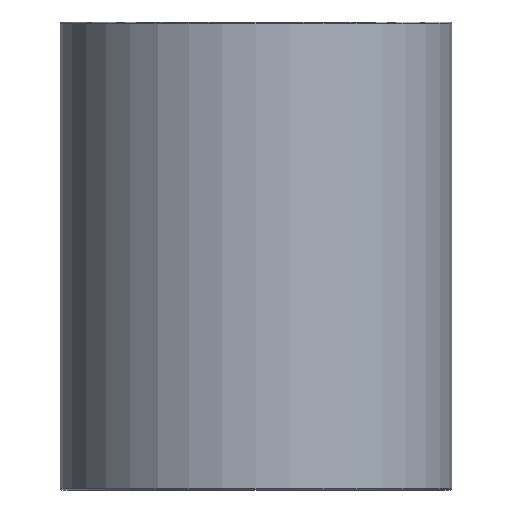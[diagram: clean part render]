
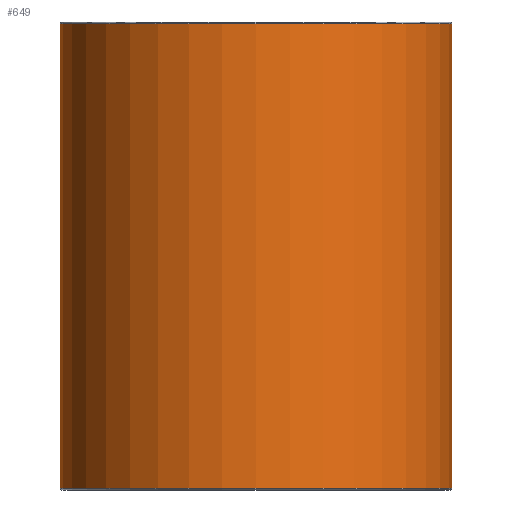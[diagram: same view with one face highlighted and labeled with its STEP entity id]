
A CAD part, front view. The second image highlights one B-rep face of the part: STEP entity #649.
In plain terms, the highlighted cylindrical face has radius 56.7 mm (diameter 113.4 mm), a partial arc.
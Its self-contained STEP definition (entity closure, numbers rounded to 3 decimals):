
#183=CARTESIAN_POINT('',(0.,0.,-0.5));
#184=DIRECTION('',(0.,0.,-1.));
#185=DIRECTION('',(1.,0.,0.));
#186=AXIS2_PLACEMENT_3D('',#183,#184,#185);
#191=CARTESIAN_POINT('',(0.,0.,-135.));
#192=DIRECTION('',(0.,0.,-1.));
#193=DIRECTION('',(1.,0.,0.));
#194=AXIS2_PLACEMENT_3D('',#191,#192,#193);
#207=DIRECTION('',(0.,0.,-1.));
#208=VECTOR('',#207,134.5);
#209=CARTESIAN_POINT('',(-56.7,0.,-0.5));
#210=LINE('',#209,#208);
#222=DIRECTION('',(0.,0.,-1.));
#223=VECTOR('',#222,134.5);
#224=CARTESIAN_POINT('',(56.7,0.,-0.5));
#225=LINE('',#224,#223);
#371=CARTESIAN_POINT('',(56.7,0.,-135.));
#372=CARTESIAN_POINT('',(-56.7,0.,-135.));
#373=VERTEX_POINT('',#371);
#374=VERTEX_POINT('',#372);
#383=CARTESIAN_POINT('',(56.7,0.,-0.5));
#384=CARTESIAN_POINT('',(-56.7,0.,-0.5));
#385=VERTEX_POINT('',#383);
#386=VERTEX_POINT('',#384);
#635=CARTESIAN_POINT('',(0.,0.,6.775));
#636=DIRECTION('',(0.,0.,-1.));
#637=DIRECTION('',(1.,0.,0.));
#638=AXIS2_PLACEMENT_3D('',#635,#636,#637);
#639=CYLINDRICAL_SURFACE('',#638,56.7);
#640=ORIENTED_EDGE('',*,*,#618,.F.);
#642=ORIENTED_EDGE('',*,*,#641,.T.);
#644=ORIENTED_EDGE('',*,*,#643,.T.);
#646=ORIENTED_EDGE('',*,*,#645,.F.);
#647=EDGE_LOOP('',(#640,#642,#644,#646));
#648=FACE_OUTER_BOUND('',#647,.F.);
#649=ADVANCED_FACE('',(#648),#639,.T.);
#187=CIRCLE('',#186,56.7);
#195=CIRCLE('',#194,56.7);
#618=EDGE_CURVE('',#385,#386,#187,.T.);
#641=EDGE_CURVE('',#385,#373,#225,.T.);
#643=EDGE_CURVE('',#373,#374,#195,.T.);
#645=EDGE_CURVE('',#386,#374,#210,.T.);
